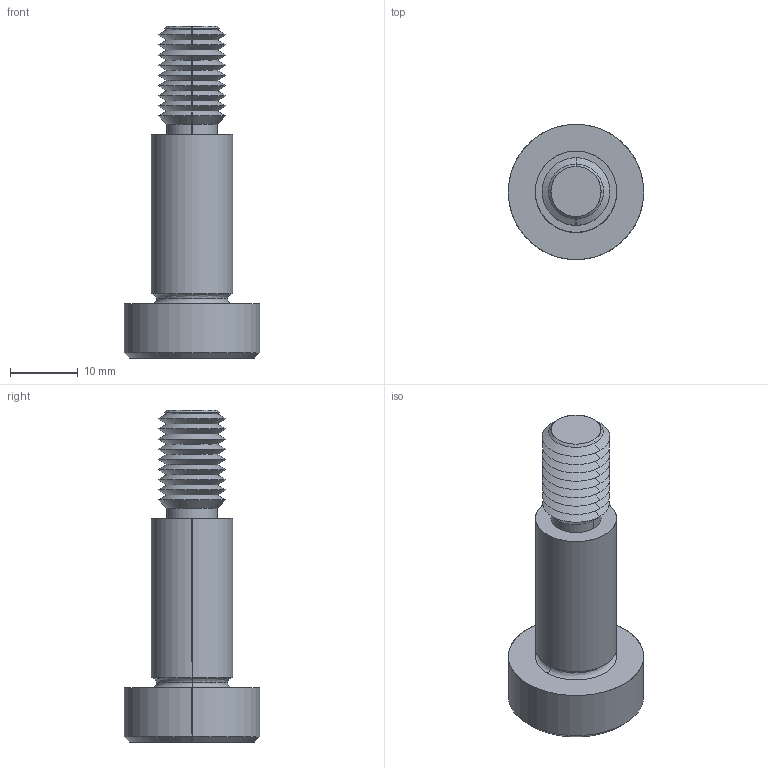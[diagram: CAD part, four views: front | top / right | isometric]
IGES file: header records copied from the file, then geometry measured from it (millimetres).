
Start section: SolidWorks IGES file using analytic representation for surfaces
Global section: file name: C:\Users\IanO\Documents\Temp Folder\GENERAL\SCREW REVISION\P0130_v2\P0130.T5_v2_20220106_IGES\P0130.120-025-T5.igs; native system: SolidWorks 2019; preprocessor: SolidWorks 2019; author: IanO; date: 220106.224706; units: millimetre
Bounding box: 20 x 20 x 49 mm (x, y, z)
Surface area: 2996.9 mm2 (no closed solid volume)
Topology: 0 solids, 0 shells, 76 faces, 564 edges, 562 vertices
Faces by surface type: revolution 56, bspline 20
